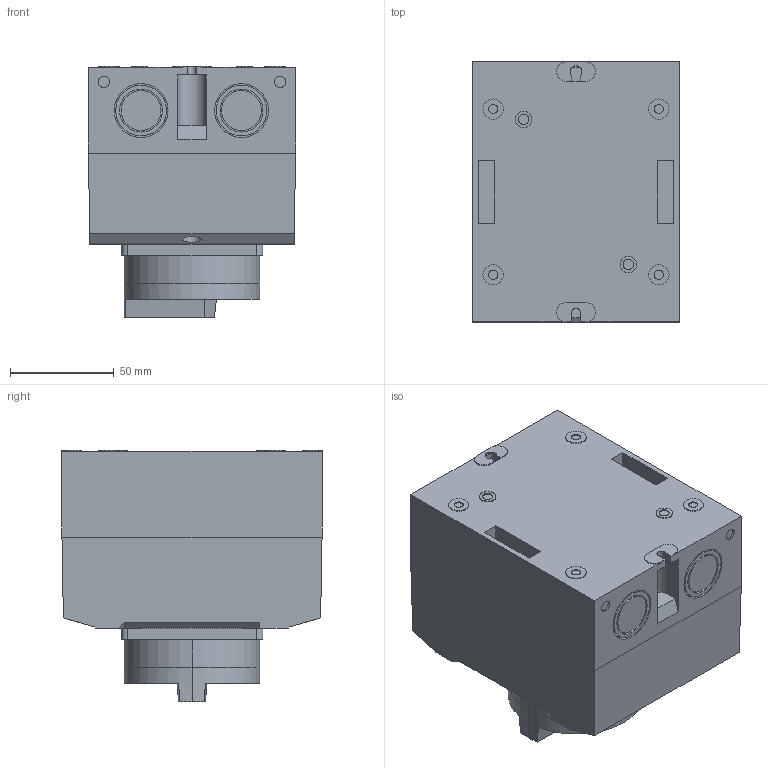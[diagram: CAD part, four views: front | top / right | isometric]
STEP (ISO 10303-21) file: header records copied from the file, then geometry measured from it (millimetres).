
FILE_DESCRIPTION (( 'STEP AP214' ), '1' );
FILE_NAME ('werkschakelaar zwart.STEP', '2026-02-06T08:26:38', ( '' ), ( '' ), 'SwSTEP 2.0', 'SolidWorks 2025', '' );
FILE_SCHEMA (( 'AUTOMOTIVE_DESIGN' ));
Length unit declared in the file: millimetre
Products named in the file (1): werkschakelaar zwart
Bounding box: 100 x 125.5 x 121.35 mm (x, y, z)
Volume: 1126511.4 mm3; surface area: 83449.6 mm2
Topology: 2 solids, 2 shells, 434 faces, 1154 edges, 766 vertices
Faces by surface type: plane 335, cylinder 95, torus 4
Entity records: 13416 total; most frequent: CARTESIAN_POINT 2379, ORIENTED_EDGE 2308, DIRECTION 2218, EDGE_CURVE 1154, VECTOR 944, LINE 944, VERTEX_POINT 766, AXIS2_PLACEMENT_3D 637
